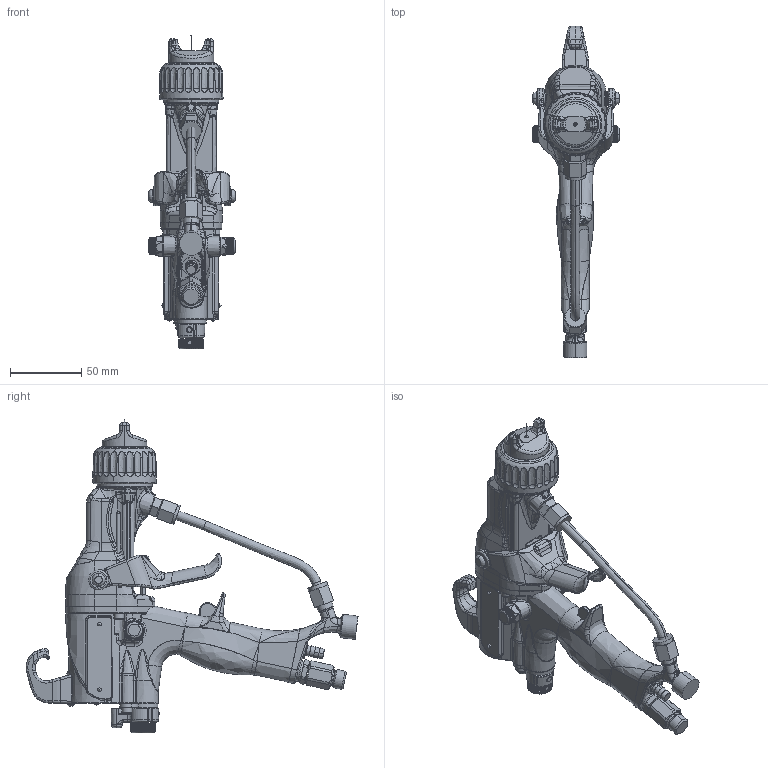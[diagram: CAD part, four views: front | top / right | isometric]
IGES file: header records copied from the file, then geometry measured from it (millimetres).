
Start section:  PTC IGES file: l40t14-en-t.igs
Global section: file name: l40t14-en-t.igs; native system: Creo Parametric by PTC Inc.; preprocessor: 2019030; author: qusrh3; organization: Unknown; date: 20200518.163456; units: inch
Bounding box: 60.96 x 233.22 x 220.37 mm (x, y, z)
Surface area: 84071.8 mm2 (no closed solid volume)
Topology: 0 solids, 0 shells, 2625 faces, 13158 edges, 13147 vertices
Faces by surface type: bspline 1387, revolution 1232, extrusion 6
